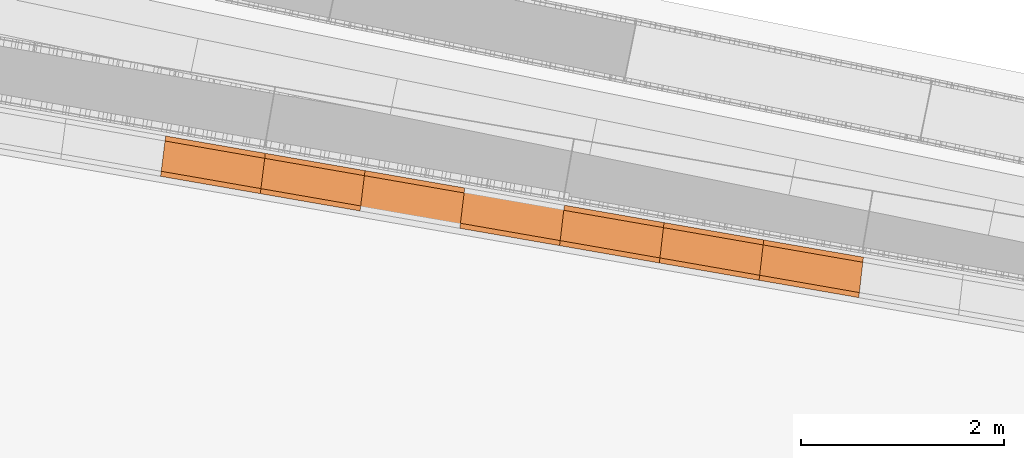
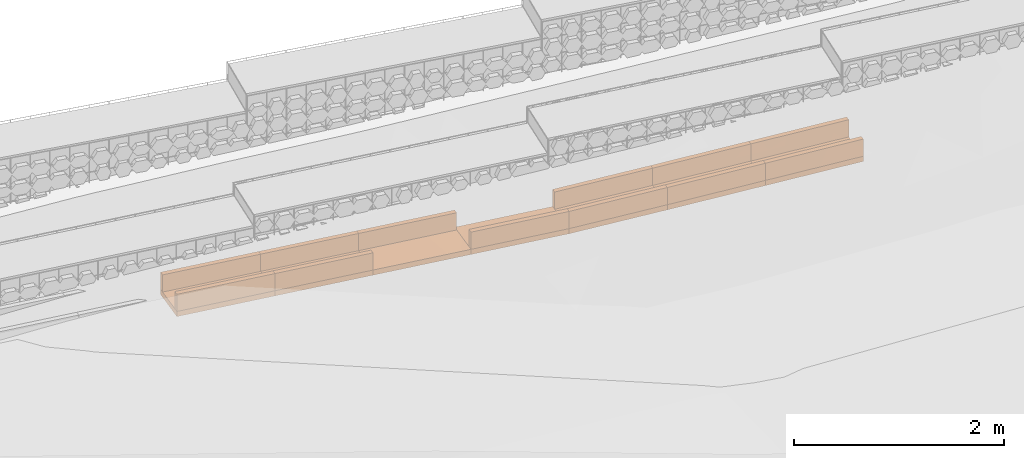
# Not in any storey, part 34 of 45: 19 proxies.
"""IFC4 model written with IfcOpenShell, lengths in metres."""

from ifc_helpers import new_model, si_unit, direction, frame, origin_with_axes, place, context, subcontext, project, spatial, polygons, material, element, save


model = new_model("IFC4")

# Units and contexts
model_context = context("Model", 3, precision=1e-05, world=origin_with_axes(), true_north=direction((0.0, 1.0)))
body_context = subcontext(model_context, "Body", "Model", "MODEL_VIEW")
ifc_project = project(units=[si_unit("VOLUMEUNIT", "CUBIC_METRE"), si_unit("LENGTHUNIT", "METRE"), si_unit("AREAUNIT", "SQUARE_METRE")], contexts=[model_context])

# Site
site_placement = place(None, origin_with_axes())
site = spatial("IfcSite", under=ifc_project, at=site_placement, Name="Lares · Rua das Mercês · artigo 4771")

# Proxies
ifc_material = material(Name="Caleiras · betão", Category="concrete")
proxy_1_placement = place(site_placement, frame((0.0, 0.0, 0.0), z_axis=(0.0, 0.0, 1.0), x_axis=(1.0, -1.03767253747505e-17, 0.0)))
element("IfcBuildingElementProxy", 1, at=proxy_1_placement, inside=site, material=ifc_material, Name="Acesso · canal lateral", ObjectType="Acesso · canal lateral", PredefinedType="USERDEFINED", context=body_context, shape_type="Tessellation", body=[
    polygons([(64.5883202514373, 8.87114563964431, 15.235), (64.6383043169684, 9.26801034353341, 15.235), (65.6186054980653, 9.0976955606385, 15.236), (65.5686214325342, 8.7008308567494, 15.236), (64.5883202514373, 8.87114563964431, 15.295), (64.6383043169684, 9.26801034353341, 15.295), (65.6186054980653, 9.0976955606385, 15.296), (65.5686214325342, 8.7008308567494, 15.296)], [[[4, 3, 2, 1]], [[5, 6, 7, 8]], [[1, 2, 6, 5]], [[2, 3, 7, 6]], [[3, 4, 8, 7]], [[4, 1, 5, 8]]]),
])
proxy_2_placement = place(site_placement, frame((0.0, 0.0, 0.0), z_axis=(0.0, 0.0, 1.0), x_axis=(1.0, -1.03767253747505e-17, 0.0)))
element("IfcBuildingElementProxy", 2, at=proxy_2_placement, inside=site, material=ifc_material, Name="Acesso · canal lateral", ObjectType="Acesso · canal lateral", PredefinedType="USERDEFINED", context=body_context, shape_type="Tessellation", body=[
    polygons([(64.5883202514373, 8.87114563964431, 15.295), (64.5945682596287, 8.92075372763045, 15.295), (65.5748694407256, 8.75043894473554, 15.296), (65.5686214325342, 8.7008308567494, 15.296), (64.5883202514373, 8.87114563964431, 15.495), (64.5945682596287, 8.92075372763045, 15.495), (65.5748694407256, 8.75043894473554, 15.496), (65.5686214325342, 8.7008308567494, 15.496)], [[[4, 3, 2, 1]], [[5, 6, 7, 8]], [[1, 2, 6, 5]], [[2, 3, 7, 6]], [[3, 4, 8, 7]], [[4, 1, 5, 8]]]),
])
proxy_3_placement = place(site_placement, frame((0.0, 0.0, 0.0), z_axis=(0.0, 0.0, 1.0), x_axis=(1.0, -1.03767253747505e-17, 0.0)))
element("IfcBuildingElementProxy", 3, at=proxy_3_placement, inside=site, material=ifc_material, Name="Acesso · canal lateral", ObjectType="Acesso · canal lateral", PredefinedType="USERDEFINED", context=body_context, shape_type="Tessellation", body=[
    polygons([(64.632056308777, 9.21840225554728, 15.295), (64.6383043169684, 9.26801034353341, 15.295), (65.6186054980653, 9.0976955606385, 15.296), (65.6123574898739, 9.04808747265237, 15.296), (64.632056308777, 9.21840225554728, 15.495), (64.6383043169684, 9.26801034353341, 15.495), (65.6186054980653, 9.0976955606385, 15.496), (65.6123574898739, 9.04808747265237, 15.496)], [[[4, 3, 2, 1]], [[5, 6, 7, 8]], [[1, 2, 6, 5]], [[2, 3, 7, 6]], [[3, 4, 8, 7]], [[4, 1, 5, 8]]]),
])
proxy_4_placement = place(site_placement, frame((0.0, 0.0, 0.0), z_axis=(0.0, 0.0, 1.0), x_axis=(1.0, -1.03767253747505e-17, 0.0)))
element("IfcBuildingElementProxy", 4, at=proxy_4_placement, inside=site, material=ifc_material, Name="Acesso · canal lateral", ObjectType="Acesso · canal lateral", PredefinedType="USERDEFINED", context=body_context, shape_type="Tessellation", body=[
    polygons([(65.5689536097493, 8.70078930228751, 15.236), (65.6182733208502, 9.09773711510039, 15.236), (66.5985619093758, 8.9274231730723, 15.237), (66.5492421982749, 8.53047536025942, 15.237), (65.5689536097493, 8.70078930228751, 15.296), (65.6182733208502, 9.09773711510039, 15.296), (66.5985619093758, 8.9274231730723, 15.297), (66.5492421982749, 8.53047536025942, 15.297)], [[[4, 3, 2, 1]], [[5, 6, 7, 8]], [[1, 2, 6, 5]], [[2, 3, 7, 6]], [[3, 4, 8, 7]], [[4, 1, 5, 8]]]),
])
proxy_5_placement = place(site_placement, frame((0.0, 0.0, 0.0), z_axis=(0.0, 0.0, 1.0), x_axis=(1.0, -1.03767253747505e-17, 0.0)))
element("IfcBuildingElementProxy", 5, at=proxy_5_placement, inside=site, material=ifc_material, Name="Acesso · canal lateral", ObjectType="Acesso · canal lateral", PredefinedType="USERDEFINED", context=body_context, shape_type="Tessellation", body=[
    polygons([(65.5689536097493, 8.70078930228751, 15.296), (65.575118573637, 8.75040777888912, 15.296), (66.5554071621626, 8.58009383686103, 15.297), (66.5492421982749, 8.53047536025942, 15.297), (65.5689536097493, 8.70078930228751, 15.496), (65.575118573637, 8.75040777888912, 15.496), (66.5554071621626, 8.58009383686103, 15.497), (66.5492421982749, 8.53047536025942, 15.497)], [[[4, 3, 2, 1]], [[5, 6, 7, 8]], [[1, 2, 6, 5]], [[2, 3, 7, 6]], [[3, 4, 8, 7]], [[4, 1, 5, 8]]]),
])
proxy_6_placement = place(site_placement, frame((0.0, 0.0, 0.0), z_axis=(0.0, 0.0, 1.0), x_axis=(1.0, -1.03767253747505e-17, 0.0)))
element("IfcBuildingElementProxy", 6, at=proxy_6_placement, inside=site, material=ifc_material, Name="Acesso · canal lateral", ObjectType="Acesso · canal lateral", PredefinedType="USERDEFINED", context=body_context, shape_type="Tessellation", body=[
    polygons([(65.6121083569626, 9.04811863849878, 15.296), (65.6182733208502, 9.09773711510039, 15.296), (66.5985619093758, 8.9274231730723, 15.297), (66.5923969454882, 8.87780469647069, 15.297), (65.6121083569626, 9.04811863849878, 15.496), (65.6182733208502, 9.09773711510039, 15.496), (66.5985619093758, 8.9274231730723, 15.497), (66.5923969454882, 8.87780469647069, 15.497)], [[[4, 3, 2, 1]], [[5, 6, 7, 8]], [[1, 2, 6, 5]], [[2, 3, 7, 6]], [[3, 4, 8, 7]], [[4, 1, 5, 8]]]),
])
proxy_7_placement = place(site_placement, frame((0.0, 0.0, 0.0), z_axis=(0.0, 0.0, 1.0), x_axis=(1.0, -1.03767253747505e-17, 0.0)))
element("IfcBuildingElementProxy", 7, at=proxy_7_placement, inside=site, material=ifc_material, Name="Acesso · canal lateral", ObjectType="Acesso · canal lateral", PredefinedType="USERDEFINED", context=body_context, shape_type="Tessellation", body=[
    polygons([(66.5495842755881, 8.53043315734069, 15.237), (66.5982198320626, 8.92746537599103, 15.237), (67.5784952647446, 8.75715227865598, 15.238), (67.5298597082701, 8.36012006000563, 15.238), (66.5495842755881, 8.53043315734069, 15.297), (66.5982198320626, 8.92746537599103, 15.297), (67.5784952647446, 8.75715227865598, 15.298), (67.5298597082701, 8.36012006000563, 15.298)], [[[4, 3, 2, 1]], [[5, 6, 7, 8]], [[1, 2, 6, 5]], [[2, 3, 7, 6]], [[3, 4, 8, 7]], [[4, 1, 5, 8]]]),
])
proxy_8_placement = place(site_placement, frame((0.0, 0.0, 0.0), z_axis=(0.0, 0.0, 1.0), x_axis=(1.0, -1.03767253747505e-17, 0.0)))
element("IfcBuildingElementProxy", 8, at=proxy_8_placement, inside=site, material=ifc_material, Name="Acesso · canal lateral", ObjectType="Acesso · canal lateral", PredefinedType="USERDEFINED", context=body_context, shape_type="Tessellation", body=[
    polygons([(66.5921403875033, 8.87783634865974, 15.297), (66.5982198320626, 8.92746537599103, 15.297), (67.5784952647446, 8.75715227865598, 15.298), (67.5724158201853, 8.70752325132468, 15.298), (66.5921403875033, 8.87783634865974, 15.497), (66.5982198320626, 8.92746537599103, 15.497), (67.5784952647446, 8.75715227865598, 15.498), (67.5724158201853, 8.70752325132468, 15.498)], [[[4, 3, 2, 1]], [[5, 6, 7, 8]], [[1, 2, 6, 5]], [[2, 3, 7, 6]], [[3, 4, 8, 7]], [[4, 1, 5, 8]]]),
])
proxy_9_placement = place(site_placement, frame((0.0, 0.0, 0.0), z_axis=(0.0, 0.0, 1.0), x_axis=(1.0, -1.03767253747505e-17, 0.0)))
element("IfcBuildingElementProxy", 9, at=proxy_9_placement, inside=site, material=ifc_material, Name="Acesso · canal lateral", ObjectType="Acesso · canal lateral", PredefinedType="USERDEFINED", context=body_context, shape_type="Tessellation", body=[
    polygons([(67.5302121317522, 8.36007720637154, 15.238), (67.5781428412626, 8.75719513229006, 15.238), (68.5584045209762, 8.58688288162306, 15.239), (68.5104738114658, 8.18976495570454, 15.239), (67.5302121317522, 8.36007720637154, 15.298), (67.5781428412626, 8.75719513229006, 15.298), (68.5584045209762, 8.58688288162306, 15.299), (68.5104738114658, 8.18976495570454, 15.299)], [[[4, 3, 2, 1]], [[5, 6, 7, 8]], [[1, 2, 6, 5]], [[2, 3, 7, 6]], [[3, 4, 8, 7]], [[4, 1, 5, 8]]]),
])
proxy_10_placement = place(site_placement, frame((0.0, 0.0, 0.0), z_axis=(0.0, 0.0, 1.0), x_axis=(1.0, -1.03767253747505e-17, 0.0)))
element("IfcBuildingElementProxy", 10, at=proxy_10_placement, inside=site, material=ifc_material, Name="Acesso · canal lateral", ObjectType="Acesso · canal lateral", PredefinedType="USERDEFINED", context=body_context, shape_type="Tessellation", body=[
    polygons([(67.5302121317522, 8.36007720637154, 15.298), (67.536203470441, 8.40971694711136, 15.298), (68.5164651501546, 8.23940469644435, 15.299), (68.5104738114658, 8.18976495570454, 15.299), (67.5302121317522, 8.36007720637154, 15.498), (67.536203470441, 8.40971694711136, 15.498), (68.5164651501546, 8.23940469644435, 15.499), (68.5104738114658, 8.18976495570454, 15.499)], [[[4, 3, 2, 1]], [[5, 6, 7, 8]], [[1, 2, 6, 5]], [[2, 3, 7, 6]], [[3, 4, 8, 7]], [[4, 1, 5, 8]]]),
])
proxy_11_placement = place(site_placement, frame((0.0, 0.0, 0.0), z_axis=(0.0, 0.0, 1.0), x_axis=(1.0, -1.03767253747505e-17, 0.0)))
element("IfcBuildingElementProxy", 11, at=proxy_11_placement, inside=site, material=ifc_material, Name="Acesso · canal lateral", ObjectType="Acesso · canal lateral", PredefinedType="USERDEFINED", context=body_context, shape_type="Tessellation", body=[
    polygons([(68.5108370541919, 8.18972145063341, 15.239), (68.5580412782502, 8.58692638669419, 15.239), (69.5382885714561, 8.41661498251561, 15.2766969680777), (69.4910843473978, 8.01941004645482, 15.2766969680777), (68.5108370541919, 8.18972145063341, 15.299), (68.5580412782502, 8.58692638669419, 15.299), (69.5382885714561, 8.41661498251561, 15.3366969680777), (69.4910843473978, 8.01941004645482, 15.3366969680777)], [[[4, 3, 2, 1]], [[5, 6, 7, 8]], [[1, 2, 6, 5]], [[2, 3, 7, 6]], [[3, 4, 8, 7]], [[4, 1, 5, 8]]]),
])
proxy_12_placement = place(site_placement, frame((0.0, 0.0, 0.0), z_axis=(0.0, 0.0, 1.0), x_axis=(1.0, -1.03767253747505e-17, 0.0)))
element("IfcBuildingElementProxy", 12, at=proxy_12_placement, inside=site, material=ifc_material, Name="Acesso · canal lateral", ObjectType="Acesso · canal lateral", PredefinedType="USERDEFINED", context=body_context, shape_type="Tessellation", body=[
    polygons([(68.5108370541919, 8.18972145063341, 15.299), (68.5167375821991, 8.239372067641, 15.299), (69.4969848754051, 8.06906066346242, 15.3366969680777), (69.4910843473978, 8.01941004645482, 15.3366969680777), (68.5108370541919, 8.18972145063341, 15.499), (68.5167375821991, 8.239372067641, 15.499), (69.4969848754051, 8.06906066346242, 15.5366969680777), (69.4910843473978, 8.01941004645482, 15.5366969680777)], [[[4, 3, 2, 1]], [[5, 6, 7, 8]], [[1, 2, 6, 5]], [[2, 3, 7, 6]], [[3, 4, 8, 7]], [[4, 1, 5, 8]]]),
])
proxy_13_placement = place(site_placement, frame((0.0, 0.0, 0.0), z_axis=(0.0, 0.0, 1.0), x_axis=(1.0, -1.03767253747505e-17, 0.0)))
element("IfcBuildingElementProxy", 13, at=proxy_13_placement, inside=site, material=ifc_material, Name="Acesso · canal lateral", ObjectType="Acesso · canal lateral", PredefinedType="USERDEFINED", context=body_context, shape_type="Tessellation", body=[
    polygons([(68.5521407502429, 8.53727576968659, 15.299), (68.5580412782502, 8.58692638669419, 15.299), (69.5382885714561, 8.41661498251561, 15.3366969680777), (69.5323880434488, 8.36696436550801, 15.3366969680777), (68.5521407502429, 8.53727576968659, 15.499), (68.5580412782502, 8.58692638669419, 15.499), (69.5382885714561, 8.41661498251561, 15.5366969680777), (69.5323880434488, 8.36696436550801, 15.5366969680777)], [[[4, 3, 2, 1]], [[5, 6, 7, 8]], [[1, 2, 6, 5]], [[2, 3, 7, 6]], [[3, 4, 8, 7]], [[4, 1, 5, 8]]]),
])
proxy_14_placement = place(site_placement, frame((0.0, 0.0, 0.0), z_axis=(0.0, 0.0, 1.0), x_axis=(1.0, -1.03767253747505e-17, 0.0)))
element("IfcBuildingElementProxy", 14, at=proxy_14_placement, inside=site, material=ifc_material, Name="Acesso · canal lateral", ObjectType="Acesso · canal lateral", PredefinedType="USERDEFINED", context=body_context, shape_type="Tessellation", body=[
    polygons([(69.491458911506, 8.01936589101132, 15.2766969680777), (69.5379140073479, 8.41665913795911, 15.2766969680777), (70.518146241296, 8.24634857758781, 15.3190598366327), (70.4716911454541, 7.84905533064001, 15.3190598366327), (69.491458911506, 8.01936589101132, 15.3366969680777), (69.5379140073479, 8.41665913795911, 15.3366969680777), (70.518146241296, 8.24634857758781, 15.3790598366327), (70.4716911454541, 7.84905533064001, 15.3790598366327)], [[[4, 3, 2, 1]], [[5, 6, 7, 8]], [[1, 2, 6, 5]], [[2, 3, 7, 6]], [[3, 4, 8, 7]], [[4, 1, 5, 8]]]),
])
proxy_15_placement = place(site_placement, frame((0.0, 0.0, 0.0), z_axis=(0.0, 0.0, 1.0), x_axis=(1.0, -1.03767253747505e-17, 0.0)))
element("IfcBuildingElementProxy", 15, at=proxy_15_placement, inside=site, material=ifc_material, Name="Acesso · canal lateral", ObjectType="Acesso · canal lateral", PredefinedType="USERDEFINED", context=body_context, shape_type="Tessellation", body=[
    polygons([(69.491458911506, 8.01936589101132, 15.3366969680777), (69.4972657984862, 8.06902754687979, 15.3366969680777), (70.4774980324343, 7.89871698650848, 15.3790598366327), (70.4716911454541, 7.84905533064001, 15.3790598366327), (69.491458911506, 8.01936589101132, 15.5366969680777), (69.4972657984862, 8.06902754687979, 15.5366969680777), (70.4774980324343, 7.89871698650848, 15.5790598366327), (70.4716911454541, 7.84905533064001, 15.5790598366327)], [[[4, 3, 2, 1]], [[5, 6, 7, 8]], [[1, 2, 6, 5]], [[2, 3, 7, 6]], [[3, 4, 8, 7]], [[4, 1, 5, 8]]]),
])
proxy_16_placement = place(site_placement, frame((0.0, 0.0, 0.0), z_axis=(0.0, 0.0, 1.0), x_axis=(1.0, -1.03767253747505e-17, 0.0)))
element("IfcBuildingElementProxy", 16, at=proxy_16_placement, inside=site, material=ifc_material, Name="Acesso · canal lateral", ObjectType="Acesso · canal lateral", PredefinedType="USERDEFINED", context=body_context, shape_type="Tessellation", body=[
    polygons([(69.5321071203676, 8.36699748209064, 15.3366969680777), (69.5379140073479, 8.41665913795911, 15.3366969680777), (70.5181462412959, 8.2463485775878, 15.3790598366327), (70.5123393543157, 8.19668692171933, 15.3790598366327), (69.5321071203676, 8.36699748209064, 15.5366969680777), (69.5379140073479, 8.41665913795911, 15.5366969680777), (70.5181462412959, 8.2463485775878, 15.5790598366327), (70.5123393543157, 8.19668692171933, 15.5790598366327)], [[[4, 3, 2, 1]], [[5, 6, 7, 8]], [[1, 2, 6, 5]], [[2, 3, 7, 6]], [[3, 4, 8, 7]], [[4, 1, 5, 8]]]),
])
proxy_17_placement = place(site_placement, frame((0.0, 0.0, 0.0), z_axis=(0.0, 0.0, 1.0), x_axis=(1.0, -1.03767253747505e-17, 0.0)))
element("IfcBuildingElementProxy", 17, at=proxy_17_placement, inside=site, material=ifc_material, Name="Acesso · canal lateral", ObjectType="Acesso · canal lateral", PredefinedType="USERDEFINED", context=body_context, shape_type="Tessellation", body=[
    polygons([(70.4720775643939, 7.84901052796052, 15.3190598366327), (70.5177598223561, 8.2463933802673, 15.3190598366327), (71.4979762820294, 8.07608365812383, 15.360890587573), (71.4522940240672, 7.67870080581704, 15.360890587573), (70.4720775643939, 7.84901052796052, 15.3790598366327), (70.5177598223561, 8.2463933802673, 15.3790598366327), (71.4979762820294, 8.07608365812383, 15.420890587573), (71.4522940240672, 7.67870080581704, 15.420890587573)], [[[4, 3, 2, 1]], [[5, 6, 7, 8]], [[1, 2, 6, 5]], [[2, 3, 7, 6]], [[3, 4, 8, 7]], [[4, 1, 5, 8]]]),
])
proxy_18_placement = place(site_placement, frame((0.0, 0.0, 0.0), z_axis=(0.0, 0.0, 1.0), x_axis=(1.0, -1.03767253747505e-17, 0.0)))
element("IfcBuildingElementProxy", 18, at=proxy_18_placement, inside=site, material=ifc_material, Name="Acesso · canal lateral", ObjectType="Acesso · canal lateral", PredefinedType="USERDEFINED", context=body_context, shape_type="Tessellation", body=[
    polygons([(70.4720775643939, 7.84901052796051, 15.3790598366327), (70.4777878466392, 7.89868338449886, 15.3790598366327), (71.4580043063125, 7.72837366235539, 15.420890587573), (71.4522940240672, 7.67870080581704, 15.420890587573), (70.4720775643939, 7.84901052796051, 15.5790598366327), (70.4777878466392, 7.89868338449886, 15.5790598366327), (71.4580043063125, 7.72837366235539, 15.620890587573), (71.4522940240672, 7.67870080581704, 15.620890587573)], [[[4, 3, 2, 1]], [[5, 6, 7, 8]], [[1, 2, 6, 5]], [[2, 3, 7, 6]], [[3, 4, 8, 7]], [[4, 1, 5, 8]]]),
])
proxy_19_placement = place(site_placement, frame((0.0, 0.0, 0.0), z_axis=(0.0, 0.0, 1.0), x_axis=(1.0, -1.03767253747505e-17, 0.0)))
element("IfcBuildingElementProxy", 19, at=proxy_19_placement, inside=site, material=ifc_material, Name="Acesso · canal lateral", ObjectType="Acesso · canal lateral", PredefinedType="USERDEFINED", context=body_context, shape_type="Tessellation", body=[
    polygons([(70.5120495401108, 8.19672052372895, 15.3790598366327), (70.5177598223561, 8.2463933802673, 15.3790598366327), (71.4979762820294, 8.07608365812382, 15.420890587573), (71.4922659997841, 8.02641080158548, 15.420890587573), (70.5120495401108, 8.19672052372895, 15.5790598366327), (70.5177598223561, 8.2463933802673, 15.5790598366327), (71.4979762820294, 8.07608365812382, 15.620890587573), (71.4922659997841, 8.02641080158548, 15.620890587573)], [[[4, 3, 2, 1]], [[5, 6, 7, 8]], [[1, 2, 6, 5]], [[2, 3, 7, 6]], [[3, 4, 8, 7]], [[4, 1, 5, 8]]]),
])

save(model, "model.ifc")
